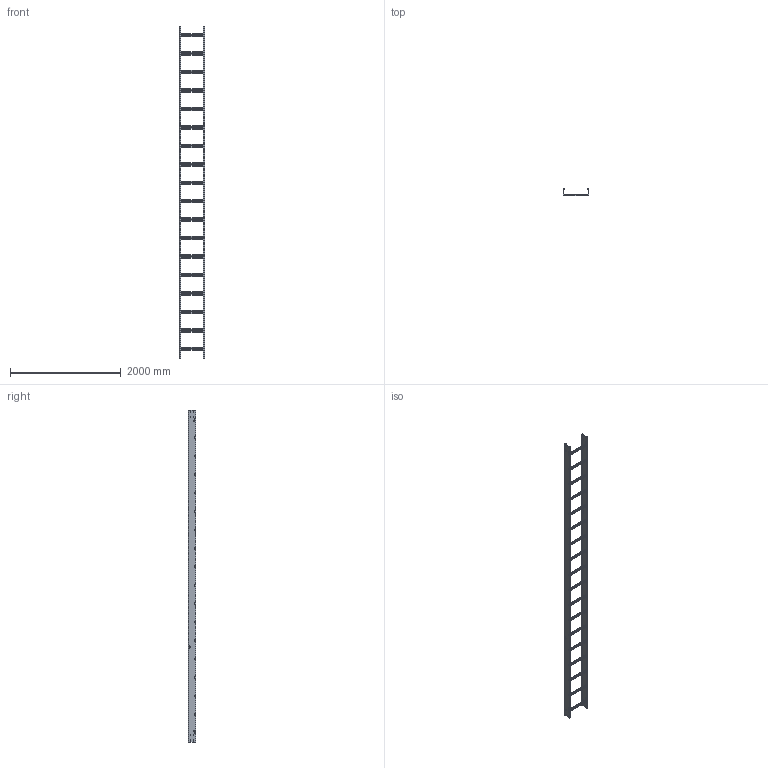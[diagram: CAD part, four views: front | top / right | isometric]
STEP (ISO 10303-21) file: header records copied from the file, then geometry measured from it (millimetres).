
FILE_DESCRIPTION (( 'STEP AP203' ), '1' );
FILE_NAME ('N3 LR 450 6m.STEP', '2024-08-29T04:04:41', ( '' ), ( '' ), 'SwSTEP 2.0', 'SolidWorks 2023', '' );
FILE_SCHEMA (( 'CONFIG_CONTROL_DESIGN' ));
Length unit declared in the file: millimetre
Products named in the file (3): Ladder Rails_Nema 3Rev - 6m; Ladder Rung_Ladder Rung -  450mm; N3 LR 450 6m
Assembly tree (20 placements, depth 2):
  N3 LR 450 6m
    Ladder Rails_Nema 3Rev - 6m  x2
    Ladder Rung_Ladder Rung -  450mm  x18
Bounding box: 453.2 x 131 x 6000 mm (x, y, z)
Volume: 4502871.4 mm3; surface area: 5730188.6 mm2
Topology: 20 solids, 20 shells, 2452 faces, 6546 edges, 4156 vertices
Faces by surface type: plane 2170, cylinder 196, bspline 86
Entity records: 12884 total; most frequent: CARTESIAN_POINT 4331, ORIENTED_EDGE 1682, DIRECTION 1411, EDGE_CURVE 841, LINE 687, VECTOR 687, VERTEX_POINT 542, EDGE_LOOP 379
